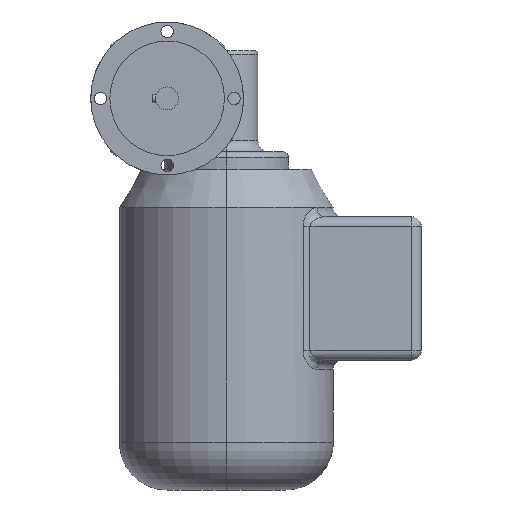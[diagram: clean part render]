
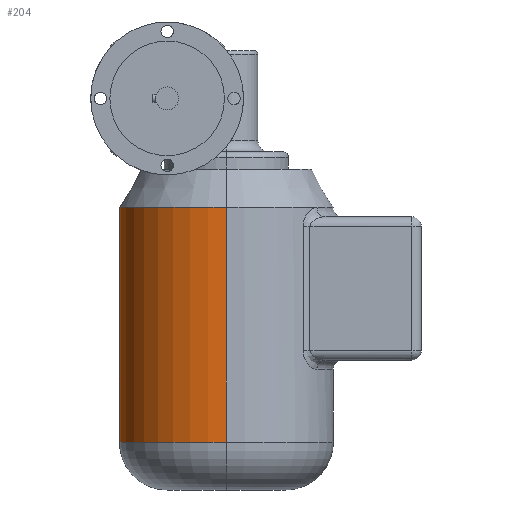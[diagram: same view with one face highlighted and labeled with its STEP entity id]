
A CAD part, left-side view. The second image highlights one B-rep face of the part: STEP entity #204.
In plain terms, the highlighted cylindrical face has radius 56 mm (diameter 112 mm), a partial arc.
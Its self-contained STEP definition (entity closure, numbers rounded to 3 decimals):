
#120 = EDGE_LOOP ( 'NONE', ( #121, #122, #124, #145 ) ) ;
#121 = ORIENTED_EDGE ( 'NONE', *, *, #194, .F. ) ;
#122 = ORIENTED_EDGE ( 'NONE', *, *, #123, .T. ) ;
#123 = EDGE_CURVE ( 'NONE', #171, #174, #1787, .T. ) ;
#124 = ORIENTED_EDGE ( 'NONE', *, *, #144, .T. ) ;
#129 = VERTEX_POINT ( 'NONE', #1777 ) ;
#144 = EDGE_CURVE ( 'NONE', #174, #167, #1855, .T. ) ;
#145 = ORIENTED_EDGE ( 'NONE', *, *, #146, .T. ) ;
#146 = EDGE_CURVE ( 'NONE', #167, #129, #1834, .T. ) ;
#167 = VERTEX_POINT ( 'NONE', #1863 ) ;
#171 = VERTEX_POINT ( 'NONE', #1857 ) ;
#174 = VERTEX_POINT ( 'NONE', #1913 ) ;
#194 = EDGE_CURVE ( 'NONE', #171, #129, #1921, .T. ) ;
#204 = ADVANCED_FACE ( 'NONE', ( #1981 ), #1982, .T. ) ;
#1777 = CARTESIAN_POINT ( 'NONE',  ( 0., 57.107, -20. ) ) ;
#1783 = DIRECTION ( 'NONE',  ( 0., -1., 0. ) ) ;
#1784 = DIRECTION ( 'NONE',  ( 0., 0., 1. ) ) ;
#1785 = CARTESIAN_POINT ( 'NONE',  ( 0., 1.107, -143. ) ) ;
#1786 = AXIS2_PLACEMENT_3D ( 'NONE', #1785, #1784, #1783 ) ;
#1787 = CIRCLE ( 'NONE', #1786, 56. ) ;
#1830 = DIRECTION ( 'NONE',  ( 0., -1., 0. ) ) ;
#1831 = DIRECTION ( 'NONE',  ( 0., 0., -1. ) ) ;
#1832 = CARTESIAN_POINT ( 'NONE',  ( 0., 1.107, -20. ) ) ;
#1833 = AXIS2_PLACEMENT_3D ( 'NONE', #1832, #1831, #1830 ) ;
#1834 = CIRCLE ( 'NONE', #1833, 56. ) ;
#1852 = DIRECTION ( 'NONE',  ( 0., 0., 1. ) ) ;
#1853 = VECTOR ( 'NONE', #1852, 1000. ) ;
#1854 = CARTESIAN_POINT ( 'NONE',  ( 0., -54.893, -168. ) ) ;
#1855 = LINE ( 'NONE', #1854, #1853 ) ;
#1857 = CARTESIAN_POINT ( 'NONE',  ( 0., 57.107, -143. ) ) ;
#1863 = CARTESIAN_POINT ( 'NONE',  ( 0., -54.893, -20. ) ) ;
#1913 = CARTESIAN_POINT ( 'NONE',  ( 0., -54.893, -143. ) ) ;
#1918 = DIRECTION ( 'NONE',  ( 0., 0., 1. ) ) ;
#1919 = VECTOR ( 'NONE', #1918, 1000. ) ;
#1920 = CARTESIAN_POINT ( 'NONE',  ( 0., 57.107, -168. ) ) ;
#1921 = LINE ( 'NONE', #1920, #1919 ) ;
#1981 = FACE_OUTER_BOUND ( 'NONE', #120, .T. ) ;
#1982 = CYLINDRICAL_SURFACE ( 'NONE', #2027, 56. ) ;
#2024 = DIRECTION ( 'NONE',  ( 0., -1., 0. ) ) ;
#2025 = DIRECTION ( 'NONE',  ( 0., 0., 1. ) ) ;
#2026 = CARTESIAN_POINT ( 'NONE',  ( 0., 1.107, -168. ) ) ;
#2027 = AXIS2_PLACEMENT_3D ( 'NONE', #2026, #2025, #2024 ) ;
